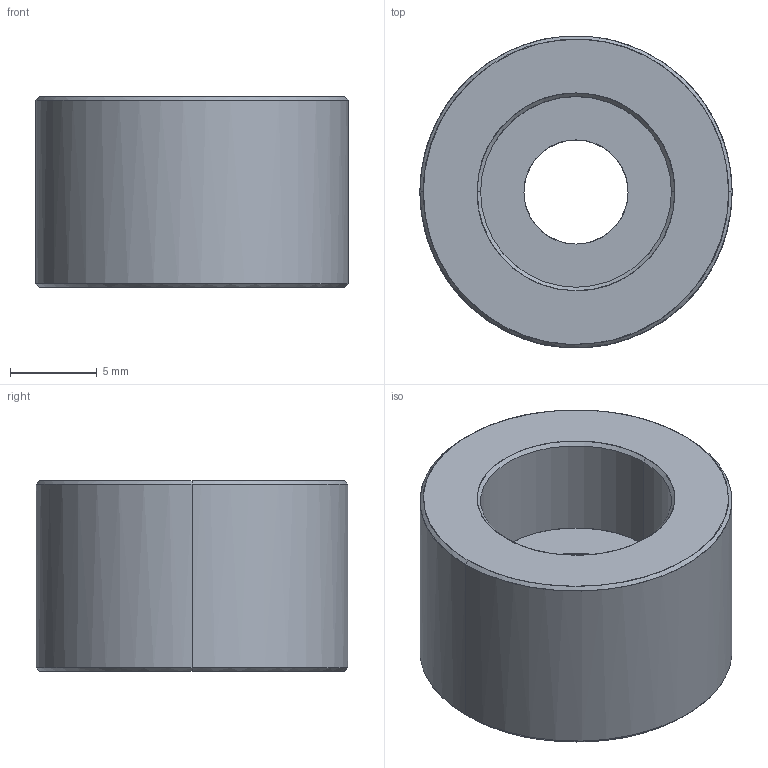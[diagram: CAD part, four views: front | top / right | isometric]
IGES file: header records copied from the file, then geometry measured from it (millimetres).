
Global section: file name: E:\UnigraphicsGraphicData\MISUMI_PRESS-PARTS\IGES\3d_j10_00098_r00.igs; native system: NX V5.0; preprocessor: UGS NX IGES V5.0; author: MISUMI; date: 20110105.161101; units: millimetre
Bounding box: 18 x 17.97 x 11 mm (x, y, z)
Surface area: 1357.9 mm2 (no closed solid volume)
Topology: 0 solids, 0 shells, 17 faces, 104 edges, 104 vertices
Faces by surface type: bspline 17
